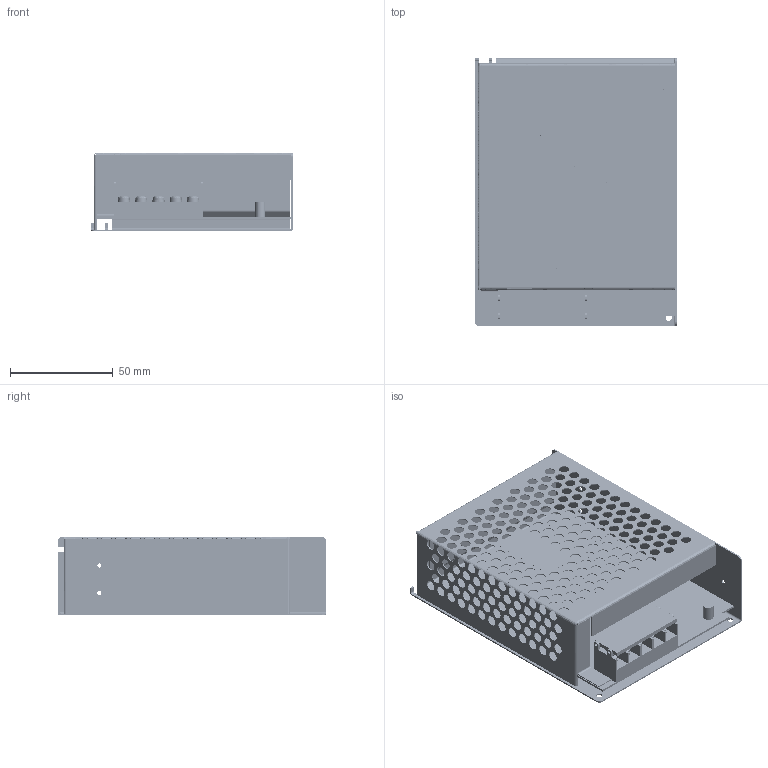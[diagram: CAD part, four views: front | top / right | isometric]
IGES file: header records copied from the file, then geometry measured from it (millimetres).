
Start section: SolidWorks IGES file using analytic representation for surfaces
Global section: file name: C:\Users\chris\Desktop\Nova pasta (2)\S - 35 - 24.IGS; native system: SolidWorks 2019; preprocessor: SolidWorks 2019; author: chris; date: 200226.110424; units: millimetre
Bounding box: 98 x 130 x 38 mm (x, y, z)
Surface area: 95802.5 mm2 (no closed solid volume)
Topology: 0 solids, 0 shells, 941 faces, 22676 edges, 22676 vertices
Faces by surface type: revolution 643, bspline 298
